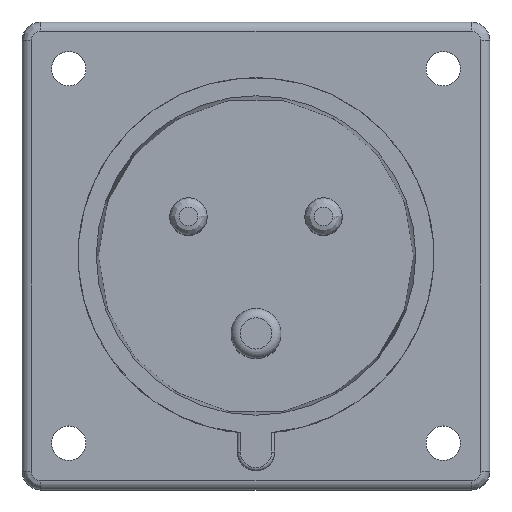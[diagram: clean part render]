
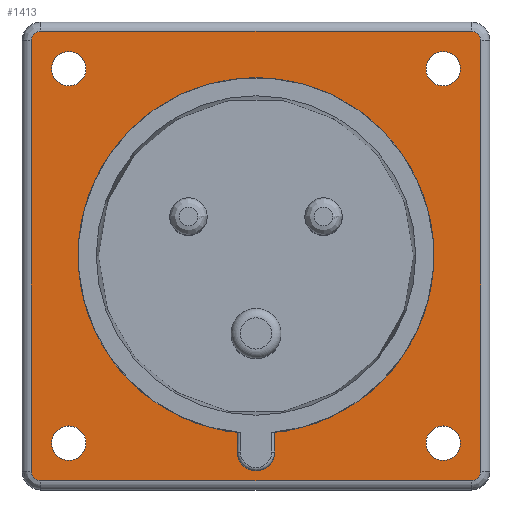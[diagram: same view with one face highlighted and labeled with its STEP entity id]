
A CAD part, top view. The second image highlights one B-rep face of the part: STEP entity #1413.
In plain terms, the highlighted planar face has unit normal (0, 0, 1).
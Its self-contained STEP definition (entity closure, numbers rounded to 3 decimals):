
#1413 = ADVANCED_FACE('',(#1414,#1484,#1504,#1524,#1544,#1564),#1584,.T.
  );
#1414 = FACE_BOUND('',#1415,.T.);
#1415 = EDGE_LOOP('',(#1416,#1426,#1435,#1443,#1452,#1460,#1469,#1477));
#1416 = ORIENTED_EDGE('',*,*,#1417,.T.);
#1417 = EDGE_CURVE('',#1418,#1420,#1422,.T.);
#1418 = VERTEX_POINT('',#1419);
#1419 = CARTESIAN_POINT('',(-36.,34.5,5.));
#1420 = VERTEX_POINT('',#1421);
#1421 = CARTESIAN_POINT('',(-36.,-34.5,5.));
#1422 = LINE('',#1423,#1424);
#1423 = CARTESIAN_POINT('',(-36.,34.5,5.));
#1424 = VECTOR('',#1425,1.);
#1425 = DIRECTION('',(0.,-1.,0.));
#1426 = ORIENTED_EDGE('',*,*,#1427,.T.);
#1427 = EDGE_CURVE('',#1420,#1428,#1430,.T.);
#1428 = VERTEX_POINT('',#1429);
#1429 = CARTESIAN_POINT('',(-34.5,-36.,5.));
#1430 = CIRCLE('',#1431,1.5);
#1431 = AXIS2_PLACEMENT_3D('',#1432,#1433,#1434);
#1432 = CARTESIAN_POINT('',(-34.5,-34.5,5.));
#1433 = DIRECTION('',(0.,0.,1.));
#1434 = DIRECTION('',(-1.,0.,0.));
#1435 = ORIENTED_EDGE('',*,*,#1436,.T.);
#1436 = EDGE_CURVE('',#1428,#1437,#1439,.T.);
#1437 = VERTEX_POINT('',#1438);
#1438 = CARTESIAN_POINT('',(34.5,-36.,5.));
#1439 = LINE('',#1440,#1441);
#1440 = CARTESIAN_POINT('',(-34.5,-36.,5.));
#1441 = VECTOR('',#1442,1.);
#1442 = DIRECTION('',(1.,0.,0.));
#1443 = ORIENTED_EDGE('',*,*,#1444,.T.);
#1444 = EDGE_CURVE('',#1437,#1445,#1447,.T.);
#1445 = VERTEX_POINT('',#1446);
#1446 = CARTESIAN_POINT('',(36.,-34.5,5.));
#1447 = CIRCLE('',#1448,1.5);
#1448 = AXIS2_PLACEMENT_3D('',#1449,#1450,#1451);
#1449 = CARTESIAN_POINT('',(34.5,-34.5,5.));
#1450 = DIRECTION('',(0.,0.,1.));
#1451 = DIRECTION('',(0.,-1.,0.));
#1452 = ORIENTED_EDGE('',*,*,#1453,.T.);
#1453 = EDGE_CURVE('',#1445,#1454,#1456,.T.);
#1454 = VERTEX_POINT('',#1455);
#1455 = CARTESIAN_POINT('',(36.,34.5,5.));
#1456 = LINE('',#1457,#1458);
#1457 = CARTESIAN_POINT('',(36.,-34.5,5.));
#1458 = VECTOR('',#1459,1.);
#1459 = DIRECTION('',(0.,1.,0.));
#1460 = ORIENTED_EDGE('',*,*,#1461,.T.);
#1461 = EDGE_CURVE('',#1454,#1462,#1464,.T.);
#1462 = VERTEX_POINT('',#1463);
#1463 = CARTESIAN_POINT('',(34.5,36.,5.));
#1464 = CIRCLE('',#1465,1.5);
#1465 = AXIS2_PLACEMENT_3D('',#1466,#1467,#1468);
#1466 = CARTESIAN_POINT('',(34.5,34.5,5.));
#1467 = DIRECTION('',(0.,0.,1.));
#1468 = DIRECTION('',(1.,0.,-0.));
#1469 = ORIENTED_EDGE('',*,*,#1470,.T.);
#1470 = EDGE_CURVE('',#1462,#1471,#1473,.T.);
#1471 = VERTEX_POINT('',#1472);
#1472 = CARTESIAN_POINT('',(-34.5,36.,5.));
#1473 = LINE('',#1474,#1475);
#1474 = CARTESIAN_POINT('',(34.5,36.,5.));
#1475 = VECTOR('',#1476,1.);
#1476 = DIRECTION('',(-1.,0.,0.));
#1477 = ORIENTED_EDGE('',*,*,#1478,.T.);
#1478 = EDGE_CURVE('',#1471,#1418,#1479,.T.);
#1479 = CIRCLE('',#1480,1.5);
#1480 = AXIS2_PLACEMENT_3D('',#1481,#1482,#1483);
#1481 = CARTESIAN_POINT('',(-34.5,34.5,5.));
#1482 = DIRECTION('',(0.,-0.,1.));
#1483 = DIRECTION('',(0.,1.,0.));
#1484 = FACE_BOUND('',#1485,.T.);
#1485 = EDGE_LOOP('',(#1486,#1497));
#1486 = ORIENTED_EDGE('',*,*,#1487,.F.);
#1487 = EDGE_CURVE('',#1488,#1490,#1492,.T.);
#1488 = VERTEX_POINT('',#1489);
#1489 = CARTESIAN_POINT('',(27.25,30.,5.));
#1490 = VERTEX_POINT('',#1491);
#1491 = CARTESIAN_POINT('',(32.75,30.,5.));
#1492 = CIRCLE('',#1493,2.75);
#1493 = AXIS2_PLACEMENT_3D('',#1494,#1495,#1496);
#1494 = CARTESIAN_POINT('',(30.,30.,5.));
#1495 = DIRECTION('',(0.,0.,1.));
#1496 = DIRECTION('',(-1.,0.,0.));
#1497 = ORIENTED_EDGE('',*,*,#1498,.F.);
#1498 = EDGE_CURVE('',#1490,#1488,#1499,.T.);
#1499 = CIRCLE('',#1500,2.75);
#1500 = AXIS2_PLACEMENT_3D('',#1501,#1502,#1503);
#1501 = CARTESIAN_POINT('',(30.,30.,5.));
#1502 = DIRECTION('',(0.,0.,1.));
#1503 = DIRECTION('',(1.,0.,-0.));
#1504 = FACE_BOUND('',#1505,.T.);
#1505 = EDGE_LOOP('',(#1506,#1517));
#1506 = ORIENTED_EDGE('',*,*,#1507,.F.);
#1507 = EDGE_CURVE('',#1508,#1510,#1512,.T.);
#1508 = VERTEX_POINT('',#1509);
#1509 = CARTESIAN_POINT('',(-32.75,30.,5.));
#1510 = VERTEX_POINT('',#1511);
#1511 = CARTESIAN_POINT('',(-27.25,30.,5.));
#1512 = CIRCLE('',#1513,2.75);
#1513 = AXIS2_PLACEMENT_3D('',#1514,#1515,#1516);
#1514 = CARTESIAN_POINT('',(-30.,30.,5.));
#1515 = DIRECTION('',(0.,0.,1.));
#1516 = DIRECTION('',(-1.,0.,0.));
#1517 = ORIENTED_EDGE('',*,*,#1518,.F.);
#1518 = EDGE_CURVE('',#1510,#1508,#1519,.T.);
#1519 = CIRCLE('',#1520,2.75);
#1520 = AXIS2_PLACEMENT_3D('',#1521,#1522,#1523);
#1521 = CARTESIAN_POINT('',(-30.,30.,5.));
#1522 = DIRECTION('',(0.,0.,1.));
#1523 = DIRECTION('',(1.,0.,-0.));
#1524 = FACE_BOUND('',#1525,.T.);
#1525 = EDGE_LOOP('',(#1526,#1537));
#1526 = ORIENTED_EDGE('',*,*,#1527,.F.);
#1527 = EDGE_CURVE('',#1528,#1530,#1532,.T.);
#1528 = VERTEX_POINT('',#1529);
#1529 = CARTESIAN_POINT('',(27.25,-30.,5.));
#1530 = VERTEX_POINT('',#1531);
#1531 = CARTESIAN_POINT('',(32.75,-30.,5.));
#1532 = CIRCLE('',#1533,2.75);
#1533 = AXIS2_PLACEMENT_3D('',#1534,#1535,#1536);
#1534 = CARTESIAN_POINT('',(30.,-30.,5.));
#1535 = DIRECTION('',(0.,0.,1.));
#1536 = DIRECTION('',(-1.,0.,0.));
#1537 = ORIENTED_EDGE('',*,*,#1538,.F.);
#1538 = EDGE_CURVE('',#1530,#1528,#1539,.T.);
#1539 = CIRCLE('',#1540,2.75);
#1540 = AXIS2_PLACEMENT_3D('',#1541,#1542,#1543);
#1541 = CARTESIAN_POINT('',(30.,-30.,5.));
#1542 = DIRECTION('',(0.,0.,1.));
#1543 = DIRECTION('',(1.,0.,-0.));
#1544 = FACE_BOUND('',#1545,.T.);
#1545 = EDGE_LOOP('',(#1546,#1557));
#1546 = ORIENTED_EDGE('',*,*,#1547,.F.);
#1547 = EDGE_CURVE('',#1548,#1550,#1552,.T.);
#1548 = VERTEX_POINT('',#1549);
#1549 = CARTESIAN_POINT('',(-32.75,-30.,5.));
#1550 = VERTEX_POINT('',#1551);
#1551 = CARTESIAN_POINT('',(-27.25,-30.,5.));
#1552 = CIRCLE('',#1553,2.75);
#1553 = AXIS2_PLACEMENT_3D('',#1554,#1555,#1556);
#1554 = CARTESIAN_POINT('',(-30.,-30.,5.));
#1555 = DIRECTION('',(0.,0.,1.));
#1556 = DIRECTION('',(-1.,0.,0.));
#1557 = ORIENTED_EDGE('',*,*,#1558,.F.);
#1558 = EDGE_CURVE('',#1550,#1548,#1559,.T.);
#1559 = CIRCLE('',#1560,2.75);
#1560 = AXIS2_PLACEMENT_3D('',#1561,#1562,#1563);
#1561 = CARTESIAN_POINT('',(-30.,-30.,5.));
#1562 = DIRECTION('',(0.,0.,1.));
#1563 = DIRECTION('',(1.,0.,-0.));
#1564 = FACE_BOUND('',#1565,.T.);
#1565 = EDGE_LOOP('',(#1566,#1577));
#1566 = ORIENTED_EDGE('',*,*,#1567,.F.);
#1567 = EDGE_CURVE('',#1568,#1570,#1572,.T.);
#1568 = VERTEX_POINT('',#1569);
#1569 = CARTESIAN_POINT('',(-28.5,0.,5.));
#1570 = VERTEX_POINT('',#1571);
#1571 = CARTESIAN_POINT('',(28.5,0.,5.));
#1572 = CIRCLE('',#1573,28.5);
#1573 = AXIS2_PLACEMENT_3D('',#1574,#1575,#1576);
#1574 = CARTESIAN_POINT('',(0.,0.,5.));
#1575 = DIRECTION('',(0.,0.,1.));
#1576 = DIRECTION('',(-1.,0.,0.));
#1577 = ORIENTED_EDGE('',*,*,#1578,.F.);
#1578 = EDGE_CURVE('',#1570,#1568,#1579,.T.);
#1579 = CIRCLE('',#1580,28.5);
#1580 = AXIS2_PLACEMENT_3D('',#1581,#1582,#1583);
#1581 = CARTESIAN_POINT('',(0.,0.,5.));
#1582 = DIRECTION('',(0.,0.,1.));
#1583 = DIRECTION('',(1.,0.,-0.));
#1584 = PLANE('',#1585);
#1585 = AXIS2_PLACEMENT_3D('',#1586,#1587,#1588);
#1586 = CARTESIAN_POINT('',(0.,0.,5.));
#1587 = DIRECTION('',(0.,0.,1.));
#1588 = DIRECTION('',(-1.,0.,0.));
